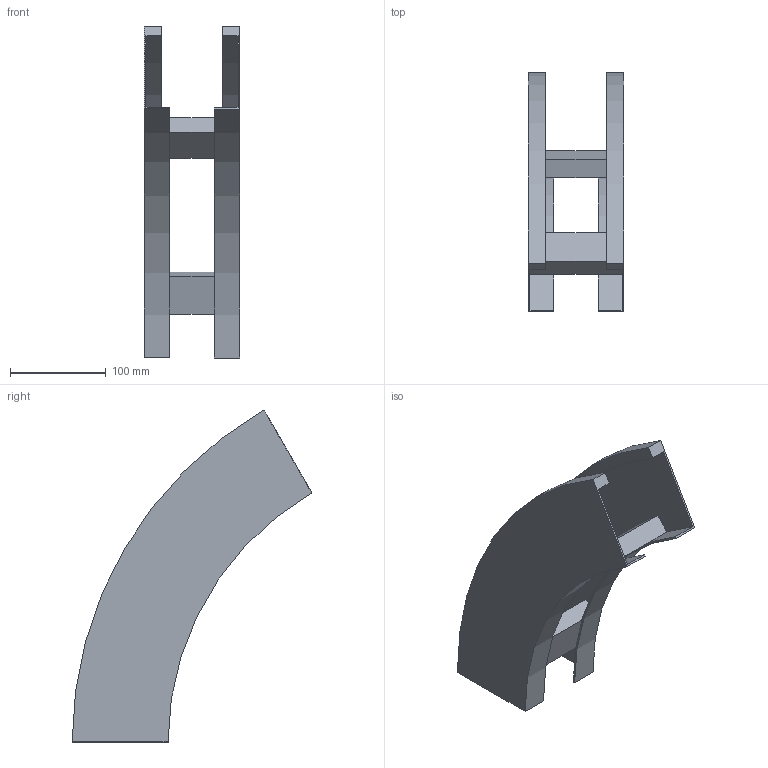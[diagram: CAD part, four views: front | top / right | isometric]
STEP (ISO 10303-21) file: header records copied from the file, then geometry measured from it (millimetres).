
FILE_DESCRIPTION (( 'STEP AP214' ), '1' );
FILE_NAME ('B2_41B3D100.step', '2025-02-21T14:57:01', ( '' ), ( '' ), 'SwSTEP 2.0', 'SolidWorks 2023', '' );
FILE_SCHEMA (( 'AUTOMOTIVE_DESIGN' ));
Length unit declared in the file: millimetre
Products named in the file (3): TRAVERSINO_100; B2_LONGH.DISCESA_60°_H100_R300; B2_41B3D100
Assembly tree (4 placements, depth 2):
  B2_41B3D100
    B2_LONGH.DISCESA_60°_H100_R300  x2
    TRAVERSINO_100  x2
Bounding box: 100 x 250 x 346.41 mm (x, y, z)
Volume: 492085.1 mm3; surface area: 235706.6 mm2
Topology: 4 solids, 4 shells, 32 faces, 72 edges, 48 vertices
Faces by surface type: plane 24, cylinder 8
Entity records: 552 total; most frequent: DIRECTION 90, CARTESIAN_POINT 83, ORIENTED_EDGE 72, EDGE_CURVE 36, AXIS2_PLACEMENT_3D 31, LINE 28, VECTOR 28, VERTEX_POINT 24
